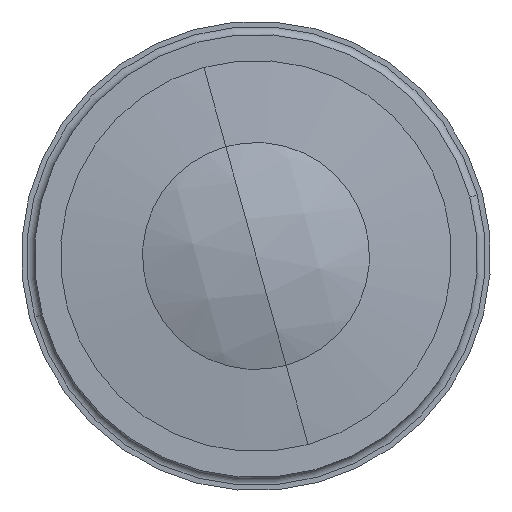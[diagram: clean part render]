
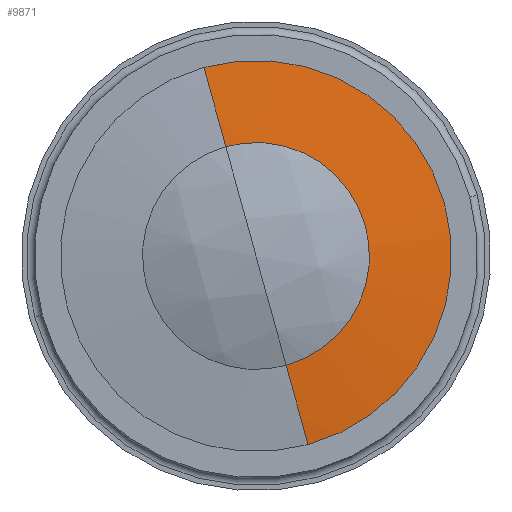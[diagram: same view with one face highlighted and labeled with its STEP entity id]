
A CAD part, left-side view. The second image highlights one B-rep face of the part: STEP entity #9871.
In plain terms, the highlighted spherical face has radius 56.5 mm.
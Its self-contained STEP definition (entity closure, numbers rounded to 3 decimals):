
#2311 = DIRECTION ( 'NONE',  ( 0., 1., 0. ) ) ;
#2314 = CARTESIAN_POINT ( 'NONE',  ( 82.786, 0., 0. ) ) ;
#2316 = DIRECTION ( 'NONE',  ( 0., 0., -1. ) ) ;
#2487 = CARTESIAN_POINT ( 'NONE',  ( 26.454, 4.35, 0. ) ) ;
#2504 = CARTESIAN_POINT ( 'NONE',  ( 26.786, -7.5, 0. ) ) ;
#2506 = CARTESIAN_POINT ( 'NONE',  ( 26.454, 0., -4.35 ) ) ;
#2508 = CARTESIAN_POINT ( 'NONE',  ( 26.786, 7.5, 0. ) ) ;
#2511 = CARTESIAN_POINT ( 'NONE',  ( 26.454, -4.35, 0. ) ) ;
#2868 = AXIS2_PLACEMENT_3D ( 'NONE', #2314, #2316, #2311 ) ;
#2918 = AXIS2_PLACEMENT_3D ( 'NONE', #9378, #9377, #9376 ) ;
#2919 = AXIS2_PLACEMENT_3D ( 'NONE', #9382, #9381, #9380 ) ;
#2920 = AXIS2_PLACEMENT_3D ( 'NONE', #9385, #9384, #9383 ) ;
#2921 = AXIS2_PLACEMENT_3D ( 'NONE', #9389, #9388, #9387 ) ;
#2922 = AXIS2_PLACEMENT_3D ( 'NONE', #9393, #9391, #9390 ) ;
#3162 = EDGE_CURVE ( 'NONE', #4531, #4530, #5524, .T. ) ;
#3163 = EDGE_CURVE ( 'NONE', #4530, #4527, #5523, .T. ) ;
#3164 = EDGE_CURVE ( 'NONE', #4528, #4527, #5520, .T. ) ;
#3165 = EDGE_CURVE ( 'NONE', #4547, #4528, #5521, .T. ) ;
#3166 = EDGE_CURVE ( 'NONE', #4531, #4547, #5519, .T. ) ;
#3555 = EDGE_LOOP ( 'NONE', ( #4046, #4047, #4048, #4049, #4050 ) ) ;
#4046 = ORIENTED_EDGE ( 'NONE', *, *, #3162, .T. ) ;
#4047 = ORIENTED_EDGE ( 'NONE', *, *, #3163, .T. ) ;
#4048 = ORIENTED_EDGE ( 'NONE', *, *, #3164, .F. ) ;
#4049 = ORIENTED_EDGE ( 'NONE', *, *, #3165, .F. ) ;
#4050 = ORIENTED_EDGE ( 'NONE', *, *, #3166, .F. ) ;
#4527 = VERTEX_POINT ( 'NONE', #2511 ) ;
#4528 = VERTEX_POINT ( 'NONE', #2506 ) ;
#4530 = VERTEX_POINT ( 'NONE', #2504 ) ;
#4531 = VERTEX_POINT ( 'NONE', #2508 ) ;
#4547 = VERTEX_POINT ( 'NONE', #2487 ) ;
#5410 = FACE_OUTER_BOUND ( 'NONE', #3555, .T. ) ;
#5412 = SPHERICAL_SURFACE ( 'NONE', #2868, 56.5 ) ;
#5519 = CIRCLE ( 'NONE', #2918, 56.5 ) ;
#5520 = CIRCLE ( 'NONE', #2920, 4.35 ) ;
#5521 = CIRCLE ( 'NONE', #2919, 4.35 ) ;
#5523 = CIRCLE ( 'NONE', #2921, 56.5 ) ;
#5524 = CIRCLE ( 'NONE', #2922, 7.5 ) ;
#9376 = DIRECTION ( 'NONE',  ( 1., 0., 0. ) ) ;
#9377 = DIRECTION ( 'NONE',  ( 0., 0., 1. ) ) ;
#9378 = CARTESIAN_POINT ( 'NONE',  ( 82.786, 0., 0. ) ) ;
#9380 = DIRECTION ( 'NONE',  ( 0., 0., 1. ) ) ;
#9381 = DIRECTION ( 'NONE',  ( -1., 0., 0. ) ) ;
#9382 = CARTESIAN_POINT ( 'NONE',  ( 26.454, 0., 0. ) ) ;
#9383 = DIRECTION ( 'NONE',  ( 0., 0., 1. ) ) ;
#9384 = DIRECTION ( 'NONE',  ( -1., 0., 0. ) ) ;
#9385 = CARTESIAN_POINT ( 'NONE',  ( 26.454, 0., 0. ) ) ;
#9387 = DIRECTION ( 'NONE',  ( 0., 1., 0. ) ) ;
#9388 = DIRECTION ( 'NONE',  ( 0., 0., -1. ) ) ;
#9389 = CARTESIAN_POINT ( 'NONE',  ( 82.786, 0., 0. ) ) ;
#9390 = DIRECTION ( 'NONE',  ( 0., 0., 1. ) ) ;
#9391 = DIRECTION ( 'NONE',  ( -1., 0., 0. ) ) ;
#9393 = CARTESIAN_POINT ( 'NONE',  ( 26.786, 0., 0. ) ) ;
#9871 = ADVANCED_FACE ( 'NONE', ( #5410 ), #5412, .T. ) ;
